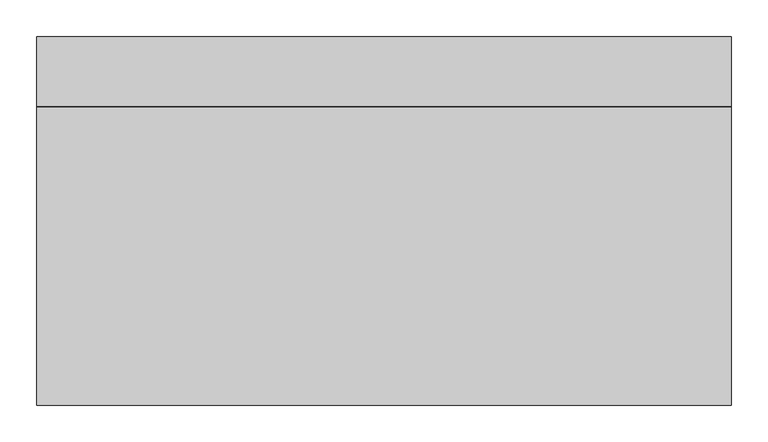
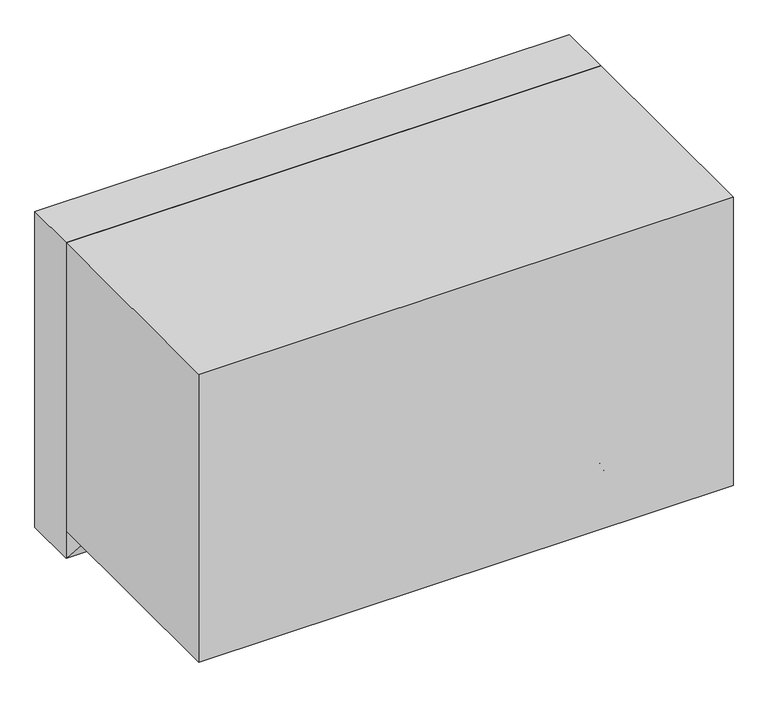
"""IFC4 building model written with IfcOpenShell, lengths in millimetres: proxy geometry, Baby Change Station_Metlam_Horizontal_Surface Mounted_Stainless Steel : 941w x 499d x 588h (ML_8200SM)."""

from ifc_helpers import new_model, si_unit, point, frame, origin, place, context, project, spatial, polyline, circle_curve, ellipse_curve, trimmed, outline, extrude, source, transform, mapped, element, save
from ifc_brep_helpers import plane_surface, cylinder_surface, revolved_surface, advanced_brep


def specialty_equipment_bf805c09(model_context):
    return source(origin(), model_context, "Body", "SolidModel", [
        advanced_brep(
        [(-389.7572247, -484.0, 780.0), (389.7572247, -484.0, 780.0), (364.666533, -484.0, 815.8332213), (362.7624956, -484.0, 816.8244004), (316.1256144, -484.0, 816.8244004), (313.801214, -484.0, 814.5), (313.801214, -484.0, 805.5), (305.1256144, -484.0, 796.8244004), (265.8909619, -484.0, 796.8244004), (258.0281984, -484.0, 801.8335332), (251.6636581, -484.0, 815.4823341), (249.5570359, -484.0, 816.8244004), (33.0, -484.0, 816.8244004), (30.6755996, -484.0, 814.5), (30.6755996, -484.0, 808.0), (24.5, -484.0, 801.8244004), (-24.5, -484.0, 801.8244004), (-30.6755996, -484.0, 808.0), (-30.6755996, -484.0, 814.5), (-33.0, -484.0, 816.8244004), (-249.5570359, -484.0, 816.8244004), (-251.6636581, -484.0, 815.4823341), (-258.0281984, -484.0, 801.8335332), (-265.8909619, -484.0, 796.8244004), (-305.1256144, -484.0, 796.8244004), (-313.801214, -484.0, 805.5), (-313.801214, -484.0, 814.5), (-316.1256144, -484.0, 816.8244004), (-362.7624956, -484.0, 816.8244004), (-364.666533, -484.0, 815.8332213), (389.7572247, -464.0, 780.0), (-389.7572247, -464.0, 780.0), (-364.666533, -464.0, 815.8332213), (-362.7624956, -464.0, 816.8244004), (-316.1256144, -464.0, 816.8244004), (-313.801214, -464.0, 814.5), (-313.801214, -464.0, 805.5), (-305.1256144, -464.0, 796.8244004), (-265.8909619, -464.0, 796.8244004), (-258.0281984, -464.0, 801.8335332), (-251.6636581, -464.0, 815.4823341), (-249.5570359, -464.0, 816.8244004), (-33.0, -464.0, 816.8244004), (-30.6755996, -464.0, 814.5), (-30.6755996, -464.0, 808.0), (-24.5, -464.0, 801.8244004), (24.5, -464.0, 801.8244004), (30.6755996, -464.0, 808.0), (30.6755996, -464.0, 814.5), (33.0, -464.0, 816.8244004), (249.5570359, -464.0, 816.8244004), (251.6636581, -464.0, 815.4823341), (258.0281984, -464.0, 801.8335332), (265.8909619, -464.0, 796.8244004), (305.1256144, -464.0, 796.8244004), (313.801214, -464.0, 805.5), (313.801214, -464.0, 814.5), (316.1256144, -464.0, 816.8244004), (362.7624956, -464.0, 816.8244004), (364.666533, -464.0, 815.8332213), (393.6339159, -480.8244004, 780.0), (393.6339159, -467.1755996, 780.0), (367.2678319, -467.1755996, 817.6546704), (367.2678319, -480.8244004, 817.6546704), (362.7624956, -467.1755996, 820.0), (362.7624956, -480.8244046, 820.0), (316.1256144, -467.1755996, 820.0), (316.1256144, -480.8244004, 820.0), (310.6256144, -467.1755996, 814.5), (310.6256144, -480.8244039, 814.5), (310.6256144, -467.1755996, 805.5), (310.6256144, -480.8244004, 805.5), (305.1256144, -467.1755996, 800.0), (305.1256144, -480.8244037, 800.0), (265.8909619, -467.1755996, 800.0), (265.8909619, -480.8244004, 800.0), (260.9062691, -467.1755996, 803.1755996), (260.9062691, -480.8243992, 803.1755996), (254.5417287, -467.1755996, 816.8244004), (254.5417287, -480.8244004, 816.8244004), (249.5570359, -467.1755996, 820.0), (249.5570359, -480.824403, 820.0), (33.0, -467.1755996, 820.0), (33.0, -480.8244004, 820.0), (27.5, -467.1755996, 814.5), (27.5, -480.8244038, 814.5), (27.5, -467.1755996, 808.0), (27.5, -480.8244004, 808.0), (24.5, -480.8244004, 805.0), (24.5, -467.1755996, 805.0), (-24.5, -467.1755996, 805.0), (-24.5, -480.8244004, 805.0), (-27.5, -480.8244004, 808.0), (-27.5, -467.1755996, 808.0), (-27.5, -467.1755996, 814.5), (-27.5, -480.8244004, 814.5), (-33.0, -467.1755996, 820.0), (-33.0, -480.8244048, 820.0), (-249.5570359, -467.1755996, 820.0), (-249.5570359, -480.8244004, 820.0), (-254.5417287, -467.1755996, 816.8244004), (-254.5417287, -480.824406, 816.8244004), (-260.9062691, -467.1755996, 803.1755996), (-260.9062691, -480.8244004, 803.1755996), (-265.8909619, -467.1755996, 800.0), (-265.8909619, -480.824404, 800.0), (-305.1256144, -467.1755996, 800.0), (-305.1256144, -480.8244004, 800.0), (-310.6256144, -467.1755996, 805.5), (-310.6256144, -480.8243995, 805.5), (-310.6256144, -467.1755996, 814.5), (-310.6256144, -480.8244004, 814.5), (-316.1256144, -467.1755996, 820.0), (-316.1256144, -480.8244006, 820.0), (-362.7624956, -467.1755996, 820.0), (-362.7624956, -480.8244004, 820.0), (-367.2678319, -467.1755996, 817.6546704), (-367.2678319, -480.8244042, 817.6546704), (-393.6339159, -467.1755996, 780.0), (-393.6339159, -480.8244004, 780.0)],
        [
            (0, 1),
            (1, 2),
            (2, 3, circle_curve(frame((362.7624956, -484.0, 814.5), z_axis=(0.0, -1.0, 0.0), x_axis=(0.8191520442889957, 0.0, 0.5735764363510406)), 2.3244004)),
            (3, 4),
            (4, 5, circle_curve(frame((316.1256144, -484.0, 814.5), z_axis=(0.0, -1.0, 0.0), x_axis=(0.0, 0.0, 1.0)), 2.3244004)),
            (5, 6),
            (6, 7, circle_curve(frame((305.1256144, -484.0, 805.5), z_axis=(0.0, 1.0, 0.0), x_axis=(1.0, 0.0, 0.0)), 8.6755996)),
            (7, 8),
            (8, 9, circle_curve(frame((265.8909619, -484.0, 805.5), z_axis=(0.0, 1.0, 0.0), x_axis=(0.0, 0.0, -1.0)), 8.6755996)),
            (9, 10),
            (10, 11, circle_curve(frame((249.5570359, -484.0, 814.5), z_axis=(0.0, -1.0, 0.0), x_axis=(0.9063077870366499, 0.0, 0.4226182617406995)), 2.3244004)),
            (11, 12),
            (12, 13, circle_curve(frame((33.0, -484.0, 814.5), z_axis=(0.0, -1.0, 0.0), x_axis=(0.0, 0.0, 1.0)), 2.3244004)),
            (13, 14),
            (14, 15, circle_curve(frame((24.5, -484.0, 808.0), z_axis=(0.0, 1.0, 0.0), x_axis=(1.0, 0.0, 0.0)), 6.1755996)),
            (15, 16),
            (16, 17, circle_curve(frame((-24.5, -484.0, 808.0), z_axis=(0.0, 1.0, 0.0), x_axis=(0.0, 0.0, -1.0)), 6.1755996)),
            (17, 18),
            (18, 19, circle_curve(frame((-33.0, -484.0, 814.5), z_axis=(0.0, -1.0, 0.0), x_axis=(1.0, 0.0, 0.0)), 2.3244004)),
            (19, 20),
            (20, 21, circle_curve(frame((-249.5570359, -484.0, 814.5), z_axis=(0.0, -1.0, 0.0), x_axis=(0.0, 0.0, 1.0)), 2.3244004)),
            (21, 22),
            (22, 23, circle_curve(frame((-265.8909619, -484.0, 805.5), z_axis=(0.0, 1.0, 0.0), x_axis=(0.9063077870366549, 0.0, -0.4226182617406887)), 8.6755996)),
            (23, 24),
            (24, 25, circle_curve(frame((-305.1256144, -484.0, 805.5), z_axis=(0.0, 1.0, 0.0), x_axis=(0.0, 0.0, -1.0)), 8.6755996)),
            (25, 26),
            (26, 27, circle_curve(frame((-316.1256144, -484.0, 814.5), z_axis=(0.0, -1.0, 0.0), x_axis=(1.0, 0.0, 0.0)), 2.3244004)),
            (27, 28),
            (28, 29, circle_curve(frame((-362.7624956, -484.0, 814.5), z_axis=(0.0, -1.0, 0.0), x_axis=(0.0, 0.0, 1.0)), 2.3244004)),
            (29, 0),
            (30, 31),
            (31, 32),
            (32, 33, circle_curve(frame((-362.7624956, -464.0, 814.5), z_axis=(0.0, 1.0, 0.0), x_axis=(0.0, 0.0, 1.0)), 2.3244004)),
            (33, 34),
            (34, 35, circle_curve(frame((-316.1256144, -464.0, 814.5), z_axis=(0.0, 1.0, 0.0), x_axis=(1.0, 0.0, 0.0)), 2.3244004)),
            (35, 36),
            (36, 37, circle_curve(frame((-305.1256144, -464.0, 805.5), z_axis=(0.0, -1.0, 0.0), x_axis=(0.0, 0.0, -1.0)), 8.6755996)),
            (37, 38),
            (38, 39, circle_curve(frame((-265.8909619, -464.0, 805.5), z_axis=(0.0, -1.0, 0.0), x_axis=(0.9063077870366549, 0.0, -0.4226182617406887)), 8.6755996)),
            (39, 40),
            (40, 41, circle_curve(frame((-249.5570359, -464.0, 814.5), z_axis=(0.0, 1.0, 0.0), x_axis=(0.0, 0.0, 1.0)), 2.3244004)),
            (41, 42),
            (42, 43, circle_curve(frame((-33.0, -464.0, 814.5), z_axis=(0.0, 1.0, 0.0), x_axis=(1.0, 0.0, 0.0)), 2.3244004)),
            (43, 44),
            (44, 45, circle_curve(frame((-24.5, -464.0, 808.0), z_axis=(0.0, -1.0, 0.0), x_axis=(0.0, 0.0, -1.0)), 6.1755996)),
            (45, 46),
            (46, 47, circle_curve(frame((24.5, -464.0, 808.0), z_axis=(0.0, -1.0, 0.0), x_axis=(1.0, 0.0, 0.0)), 6.1755996)),
            (47, 48),
            (48, 49, circle_curve(frame((33.0, -464.0, 814.5), z_axis=(0.0, 1.0, 0.0), x_axis=(0.0, 0.0, 1.0)), 2.3244004)),
            (49, 50),
            (50, 51, circle_curve(frame((249.5570359, -464.0, 814.5), z_axis=(0.0, 1.0, 0.0), x_axis=(0.9063077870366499, 0.0, 0.4226182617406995)), 2.3244004)),
            (51, 52),
            (52, 53, circle_curve(frame((265.8909619, -464.0, 805.5), z_axis=(0.0, -1.0, 0.0), x_axis=(0.0, 0.0, -1.0)), 8.6755996)),
            (53, 54),
            (54, 55, circle_curve(frame((305.1256144, -464.0, 805.5), z_axis=(0.0, -1.0, 0.0), x_axis=(1.0, 0.0, 0.0)), 8.6755996)),
            (55, 56),
            (56, 57, circle_curve(frame((316.1256144, -464.0, 814.5), z_axis=(0.0, 1.0, 0.0), x_axis=(0.0, 0.0, 1.0)), 2.3244004)),
            (57, 58),
            (58, 59, circle_curve(frame((362.7624956, -464.0, 814.5), z_axis=(0.0, 1.0, 0.0), x_axis=(0.8191520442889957, 0.0, 0.5735764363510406)), 2.3244004)),
            (59, 30),
            (60, 61),
            (61, 62),
            (62, 63),
            (63, 60),
            (62, 64, circle_curve(frame((362.7624956, -467.1755996, 814.5), z_axis=(0.0, -1.0, 0.0), x_axis=(1.0, 0.0, 0.0)), 5.5)),
            (64, 65),
            (65, 63, circle_curve(frame((362.7624956, -480.8244004, 814.5), z_axis=(0.0, 1.0, 0.0), x_axis=(1.0, 0.0, 0.0)), 5.5)),
            (64, 66),
            (66, 67),
            (67, 65),
            (66, 68, circle_curve(frame((316.1256144, -467.1755996, 814.5), z_axis=(0.0, -1.0, 0.0), x_axis=(1.0, 0.0, 0.0)), 5.5)),
            (68, 69),
            (69, 67, circle_curve(frame((316.1256144, -480.8244004, 814.5), z_axis=(0.0, 1.0, 0.0), x_axis=(1.0, 0.0, 0.0)), 5.5)),
            (68, 70),
            (70, 71),
            (71, 69),
            (70, 72, circle_curve(frame((305.1256144, -467.1755996, 805.5), z_axis=(0.0, 1.0, 0.0), x_axis=(1.0, 0.0, 0.0)), 5.5)),
            (72, 73),
            (73, 71, circle_curve(frame((305.1256144, -480.8244004, 805.5), z_axis=(0.0, -1.0, 0.0), x_axis=(1.0, 0.0, 0.0)), 5.5)),
            (72, 74),
            (74, 75),
            (75, 73),
            (74, 76, circle_curve(frame((265.8909619, -467.1755996, 805.5), z_axis=(0.0, 1.0, 0.0), x_axis=(1.0, 0.0, 0.0)), 5.5)),
            (76, 77),
            (77, 75, circle_curve(frame((265.8909619, -480.8244004, 805.5), z_axis=(0.0, -1.0, 0.0), x_axis=(1.0, 0.0, 0.0)), 5.5)),
            (76, 78),
            (78, 79),
            (79, 77),
            (78, 80, circle_curve(frame((249.5570359, -467.1755996, 814.5), z_axis=(0.0, -1.0, 0.0), x_axis=(1.0, 0.0, 0.0)), 5.5)),
            (80, 81),
            (81, 79, circle_curve(frame((249.5570359, -480.8244004, 814.5), z_axis=(0.0, 1.0, 0.0), x_axis=(1.0, 0.0, 0.0)), 5.5)),
            (80, 82),
            (82, 83),
            (83, 81),
            (82, 84, circle_curve(frame((33.0, -467.1755996, 814.5), z_axis=(0.0, -1.0, 0.0), x_axis=(1.0, 0.0, 0.0)), 5.5)),
            (84, 85),
            (85, 83, circle_curve(frame((33.0, -480.8244004, 814.5), z_axis=(0.0, 1.0, 0.0), x_axis=(1.0, 0.0, 0.0)), 5.5)),
            (84, 86),
            (86, 87),
            (87, 85),
            (88, 89),
            (89, 90),
            (90, 91),
            (91, 88),
            (92, 93),
            (93, 94),
            (94, 95),
            (95, 92),
            (94, 96, circle_curve(frame((-33.0, -467.1755996, 814.5), z_axis=(0.0, -1.0, 0.0), x_axis=(1.0, 0.0, 0.0)), 5.5)),
            (96, 97),
            (97, 95, circle_curve(frame((-33.0, -480.8244004, 814.5), z_axis=(0.0, 1.0, 0.0), x_axis=(1.0, 0.0, 0.0)), 5.5)),
            (96, 98),
            (98, 99),
            (99, 97),
            (98, 100, circle_curve(frame((-249.5570359, -467.1755996, 814.5), z_axis=(0.0, -1.0, 0.0), x_axis=(1.0, 0.0, 0.0)), 5.5)),
            (100, 101),
            (101, 99, circle_curve(frame((-249.5570359, -480.8244004, 814.5), z_axis=(0.0, 1.0, 0.0), x_axis=(1.0, 0.0, 0.0)), 5.5)),
            (100, 102),
            (102, 103),
            (103, 101),
            (102, 104, circle_curve(frame((-265.8909619, -467.1755996, 805.5), z_axis=(0.0, 1.0, 0.0), x_axis=(1.0, 0.0, 0.0)), 5.5)),
            (104, 105),
            (105, 103, circle_curve(frame((-265.8909619, -480.8244004, 805.5), z_axis=(0.0, -1.0, 0.0), x_axis=(1.0, 0.0, 0.0)), 5.5)),
            (104, 106),
            (106, 107),
            (107, 105),
            (106, 108, circle_curve(frame((-305.1256144, -467.1755996, 805.5), z_axis=(0.0, 1.0, 0.0), x_axis=(1.0, 0.0, 0.0)), 5.5)),
            (108, 109),
            (109, 107, circle_curve(frame((-305.1256144, -480.8244004, 805.5), z_axis=(0.0, -1.0, 0.0), x_axis=(1.0, 0.0, 0.0)), 5.5)),
            (108, 110),
            (110, 111),
            (111, 109),
            (110, 112, circle_curve(frame((-316.1256144, -467.1755996, 814.5), z_axis=(0.0, -1.0, 0.0), x_axis=(1.0, 0.0, 0.0)), 5.5)),
            (112, 113),
            (113, 111, circle_curve(frame((-316.1256144, -480.8244004, 814.5), z_axis=(0.0, 1.0, 0.0), x_axis=(1.0, 0.0, 0.0)), 5.5)),
            (112, 114),
            (114, 115),
            (115, 113),
            (114, 116, circle_curve(frame((-362.7624956, -467.1755996, 814.5), z_axis=(0.0, -1.0, 0.0), x_axis=(1.0, 0.0, 0.0)), 5.5)),
            (116, 117),
            (117, 115, circle_curve(frame((-362.7624956, -480.8244004, 814.5), z_axis=(0.0, 1.0, 0.0), x_axis=(1.0, 0.0, 0.0)), 5.5)),
            (116, 118),
            (118, 119),
            (119, 117),
            (0, 119, ellipse_curve(frame((-389.7572247, -480.8244004, 780.0), z_axis=(0.0, 0.0, -1.0), x_axis=(-1.0, 0.0, 0.0)), 3.8766912, 3.1755996)),
            (118, 31, ellipse_curve(frame((-389.7572247, -467.1755996, 780.0), z_axis=(0.0, 0.0, -1.0), x_axis=(-1.0, 0.0, 0.0)), 3.8766912, 3.1755996)),
            (30, 61, ellipse_curve(frame((389.7572247, -467.1755996, 780.0), z_axis=(0.0, 0.0, -1.0), x_axis=(-1.0, 0.0, 0.0)), 3.8766912, 3.1755996)),
            (60, 1, ellipse_curve(frame((389.7572247, -480.8244004, 780.0), z_axis=(0.0, 0.0, -1.0), x_axis=(-1.0, 0.0, 0.0)), 3.8766912, 3.1755996)),
            (88, 87, circle_curve(frame((24.5, -480.8244004, 808.0), z_axis=(0.0, -1.0, 0.0), x_axis=(1.0, 0.0, 0.0)), 3.0)),
            (86, 89, circle_curve(frame((24.5, -467.1755996, 808.0), z_axis=(0.0, 1.0, 0.0), x_axis=(1.0, 0.0, 0.0)), 3.0)),
            (92, 91, circle_curve(frame((-24.5, -480.8244004, 808.0), z_axis=(0.0, -1.0, 0.0), x_axis=(1.0, 0.0, 0.0)), 3.0)),
            (90, 93, circle_curve(frame((-24.5, -467.1755996, 808.0), z_axis=(0.0, 1.0, 0.0), x_axis=(1.0, 0.0, 0.0)), 3.0)),
            (59, 62, circle_curve(frame((364.666533, -467.1755996, 815.8332213), z_axis=(0.5735764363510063, 0.0, -0.8191520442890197), x_axis=(-0.8191520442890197, 0.0, -0.5735764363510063)), 3.1755996)),
            (63, 2, circle_curve(frame((364.666533, -480.8244004, 815.8332213), z_axis=(0.5735764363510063, 0.0, -0.8191520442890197), x_axis=(-0.8191520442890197, 0.0, -0.5735764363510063)), 3.1755996)),
            (58, 64, circle_curve(frame((362.7624956, -467.1755996, 816.8244004), z_axis=(1.0, 0.0, 0.0), x_axis=(0.0, 0.0, -1.0)), 3.1755996)),
            (65, 3, circle_curve(frame((362.7624956, -480.8244004, 816.8244004), z_axis=(1.0, 0.0, 0.0), x_axis=(0.0, 0.0, -1.0)), 3.1755996)),
            (57, 66, circle_curve(frame((316.1256144, -467.1755996, 816.8244004), z_axis=(1.0, 0.0, 0.0), x_axis=(0.0, 0.0, -1.0)), 3.1755996)),
            (67, 4, circle_curve(frame((316.1256144, -480.8244004, 816.8244004), z_axis=(1.0, 0.0, 0.0), x_axis=(0.0, 0.0, -1.0)), 3.1755996)),
            (56, 68, circle_curve(frame((313.801214, -467.1755996, 814.5), z_axis=(0.0, 0.0, 1.0), x_axis=(1.0, 0.0, 0.0)), 3.1755996)),
            (69, 5, circle_curve(frame((313.801214, -480.8244004, 814.5), z_axis=(0.0, 0.0, 1.0), x_axis=(1.0, 0.0, 0.0)), 3.1755996)),
            (55, 70, circle_curve(frame((313.801214, -467.1755996, 805.5), z_axis=(0.0, 0.0, 1.0), x_axis=(1.0, 0.0, 0.0)), 3.1755996)),
            (71, 6, circle_curve(frame((313.801214, -480.8244004, 805.5), z_axis=(0.0, 0.0, 1.0), x_axis=(1.0, 0.0, 0.0)), 3.1755996)),
            (54, 72, circle_curve(frame((305.1256144, -467.1755996, 796.8244004), z_axis=(1.0, 0.0, 0.0), x_axis=(0.0, 0.0, -1.0)), 3.1755996)),
            (73, 7, circle_curve(frame((305.1256144, -480.8244004, 796.8244004), z_axis=(1.0, 0.0, 0.0), x_axis=(0.0, 0.0, -1.0)), 3.1755996)),
            (53, 74, circle_curve(frame((265.8909619, -467.1755996, 796.8244004), z_axis=(1.0, 0.0, 0.0), x_axis=(0.0, 0.0, -1.0)), 3.1755996)),
            (75, 8, circle_curve(frame((265.8909619, -480.8244004, 796.8244004), z_axis=(1.0, 0.0, 0.0), x_axis=(0.0, 0.0, -1.0)), 3.1755996)),
            (52, 76, circle_curve(frame((258.0281984, -467.1755996, 801.8335332), z_axis=(0.4226182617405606, 0.0, -0.9063077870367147), x_axis=(-0.9063077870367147, 0.0, -0.4226182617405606)), 3.1755996)),
            (77, 9, circle_curve(frame((258.0281984, -480.8244004, 801.8335332), z_axis=(0.4226182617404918, 0.0, -0.9063077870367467), x_axis=(-0.9063077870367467, 0.0, -0.4226182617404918)), 3.1755996)),
            (51, 78, circle_curve(frame((251.6636581, -467.1755996, 815.4823341), z_axis=(0.4226182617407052, 0.0, -0.9063077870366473), x_axis=(-0.9063077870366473, 0.0, -0.4226182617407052)), 3.1755996)),
            (79, 10, circle_curve(frame((251.6636581, -480.8244004, 815.4823341), z_axis=(0.4226182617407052, 0.0, -0.9063077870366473), x_axis=(-0.9063077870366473, 0.0, -0.4226182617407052)), 3.1755996)),
            (50, 80, circle_curve(frame((249.5570359, -467.1755996, 816.8244004), z_axis=(1.0, 0.0, 0.0), x_axis=(0.0, 0.0, -1.0)), 3.1755996)),
            (81, 11, circle_curve(frame((249.5570359, -480.8244004, 816.8244004), z_axis=(1.0, 0.0, 0.0), x_axis=(0.0, 0.0, -1.0)), 3.1755996)),
            (49, 82, circle_curve(frame((33.0, -467.1755996, 816.8244004), z_axis=(1.0, 0.0, 0.0), x_axis=(0.0, 0.0, -1.0)), 3.1755996)),
            (83, 12, circle_curve(frame((33.0, -480.8244004, 816.8244004), z_axis=(1.0, 0.0, 0.0), x_axis=(0.0, 0.0, -1.0)), 3.1755996)),
            (48, 84, circle_curve(frame((30.6755996, -467.1755996, 814.5), z_axis=(0.0, 0.0, 1.0), x_axis=(1.0, 0.0, 0.0)), 3.1755996)),
            (85, 13, circle_curve(frame((30.6755996, -480.8244004, 814.5), z_axis=(0.0, 0.0, 1.0), x_axis=(1.0, 0.0, 0.0)), 3.1755996)),
            (47, 86, circle_curve(frame((30.6755996, -467.1755996, 808.0), z_axis=(0.0, 0.0, 1.0), x_axis=(1.0, 0.0, 0.0)), 3.1755996)),
            (87, 14, circle_curve(frame((30.6755996, -480.8244004, 808.0), z_axis=(0.0, 0.0, 1.0), x_axis=(1.0, 0.0, 0.0)), 3.1755996)),
            (45, 90, circle_curve(frame((-24.5, -467.1755996, 801.8244004), z_axis=(1.0, 0.0, 0.0), x_axis=(0.0, 0.0, -1.0)), 3.1755996)),
            (89, 46, circle_curve(frame((24.5, -467.1755996, 801.8244004), z_axis=(-1.0, 0.0, 0.0), x_axis=(0.0, 0.0, -1.0)), 3.1755996)),
            (91, 16, circle_curve(frame((-24.5, -480.8244004, 801.8244004), z_axis=(1.0, 0.0, 0.0), x_axis=(0.0, 0.0, -1.0)), 3.1755996)),
            (15, 88, circle_curve(frame((24.5, -480.8244004, 801.8244004), z_axis=(-1.0, 0.0, 0.0), x_axis=(0.0, 0.0, -1.0)), 3.1755996)),
            (43, 94, circle_curve(frame((-30.6755996, -467.1755996, 814.5), z_axis=(0.0, 0.0, -1.0), x_axis=(-1.0, 0.0, 0.0)), 3.1755996)),
            (93, 44, circle_curve(frame((-30.6755996, -467.1755996, 808.0), z_axis=(0.0, 0.0, 1.0), x_axis=(-1.0, 0.0, 0.0)), 3.1755996)),
            (95, 18, circle_curve(frame((-30.6755996, -480.8244004, 814.5), z_axis=(0.0, 0.0, -1.0), x_axis=(-1.0, 0.0, 0.0)), 3.1755996)),
            (17, 92, circle_curve(frame((-30.6755996, -480.8244004, 808.0), z_axis=(0.0, 0.0, 1.0), x_axis=(-1.0, 0.0, 0.0)), 3.1755996)),
            (42, 96, circle_curve(frame((-33.0, -467.1755996, 816.8244004), z_axis=(1.0, 0.0, 0.0), x_axis=(0.0, 0.0, -1.0)), 3.1755996)),
            (97, 19, circle_curve(frame((-33.0, -480.8244004, 816.8244004), z_axis=(1.0, 0.0, 0.0), x_axis=(0.0, 0.0, -1.0)), 3.1755996)),
            (41, 98, circle_curve(frame((-249.5570359, -467.1755996, 816.8244004), z_axis=(1.0, 0.0, 0.0), x_axis=(0.0, 0.0, -1.0)), 3.1755996)),
            (99, 20, circle_curve(frame((-249.5570359, -480.8244004, 816.8244004), z_axis=(1.0, 0.0, 0.0), x_axis=(0.0, 0.0, -1.0)), 3.1755996)),
            (40, 100, circle_curve(frame((-251.6636581, -467.1755996, 815.4823341), z_axis=(0.4226182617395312, 0.0, 0.9063077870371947), x_axis=(0.9063077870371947, 0.0, -0.4226182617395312)), 3.1755996)),
            (101, 21, circle_curve(frame((-251.6636581, -480.8244004, 815.4823341), z_axis=(0.4226182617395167, 0.0, 0.9063077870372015), x_axis=(0.9063077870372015, 0.0, -0.4226182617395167)), 3.1755996)),
            (39, 102, circle_curve(frame((-258.0281984, -467.1755996, 801.8335332), z_axis=(0.4226182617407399, 0.0, 0.9063077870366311), x_axis=(0.9063077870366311, 0.0, -0.4226182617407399)), 3.1755996)),
            (103, 22, circle_curve(frame((-258.0281984, -480.8244004, 801.8335332), z_axis=(0.4226182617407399, 0.0, 0.9063077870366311), x_axis=(0.9063077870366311, 0.0, -0.4226182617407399)), 3.1755996)),
            (38, 104, circle_curve(frame((-265.8909619, -467.1755996, 796.8244004), z_axis=(1.0, 0.0, 0.0), x_axis=(0.0, 0.0, -1.0)), 3.1755996)),
            (105, 23, circle_curve(frame((-265.8909619, -480.8244004, 796.8244004), z_axis=(1.0, 0.0, 0.0), x_axis=(0.0, 0.0, -1.0)), 3.1755996)),
            (37, 106, circle_curve(frame((-305.1256144, -467.1755996, 796.8244004), z_axis=(1.0, 0.0, 0.0), x_axis=(0.0, 0.0, -1.0)), 3.1755996)),
            (107, 24, circle_curve(frame((-305.1256144, -480.8244004, 796.8244004), z_axis=(1.0, 0.0, 0.0), x_axis=(0.0, 0.0, -1.0)), 3.1755996)),
            (36, 108, circle_curve(frame((-313.801214, -467.1755996, 805.5), z_axis=(0.0, 0.0, -1.0), x_axis=(-1.0, 0.0, 0.0)), 3.1755996)),
            (109, 25, circle_curve(frame((-313.801214, -480.8244004, 805.5), z_axis=(0.0, 0.0, -1.0), x_axis=(-1.0, 0.0, 0.0)), 3.1755996)),
            (35, 110, circle_curve(frame((-313.801214, -467.1755996, 814.5), z_axis=(0.0, 0.0, -1.0), x_axis=(-1.0, 0.0, 0.0)), 3.1755996)),
            (111, 26, circle_curve(frame((-313.801214, -480.8244004, 814.5), z_axis=(0.0, 0.0, -1.0), x_axis=(-1.0, 0.0, 0.0)), 3.1755996)),
            (34, 112, circle_curve(frame((-316.1256144, -467.1755996, 816.8244004), z_axis=(1.0, 0.0, 0.0), x_axis=(0.0, 0.0, -1.0)), 3.1755996)),
            (113, 27, circle_curve(frame((-316.1256144, -480.8244004, 816.8244004), z_axis=(1.0, 0.0, 0.0), x_axis=(0.0, 0.0, -1.0)), 3.1755996)),
            (33, 114, circle_curve(frame((-362.7624956, -467.1755996, 816.8244004), z_axis=(1.0, 0.0, 0.0), x_axis=(0.0, 0.0, -1.0)), 3.1755996)),
            (115, 28, circle_curve(frame((-362.7624956, -480.8244004, 816.8244004), z_axis=(1.0, 0.0, 0.0), x_axis=(0.0, 0.0, -1.0)), 3.1755996)),
            (32, 116, circle_curve(frame((-364.666533, -467.1755996, 815.8332213), z_axis=(0.5735764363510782, 0.0, 0.8191520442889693), x_axis=(0.8191520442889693, 0.0, -0.5735764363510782)), 3.1755996)),
            (117, 29, circle_curve(frame((-364.666533, -480.8244004, 815.8332213), z_axis=(0.5735764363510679, 0.0, 0.8191520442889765), x_axis=(0.8191520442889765, 0.0, -0.5735764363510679)), 3.1755996)),
        ],
        [
            plane_surface(frame((393.6339159, -484.0, 780.0), z_axis=(0.0, -1.0000000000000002, 0.0), x_axis=(-0.573576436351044, 0.0, 0.8191520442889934))),
            plane_surface(frame((393.6339159, -464.0, 780.0), z_axis=(0.0, 1.0000000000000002, 0.0), x_axis=(0.573576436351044, 0.0, -0.8191520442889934))),
            plane_surface(frame((393.6339159, -484.0, 780.0), z_axis=(0.8191520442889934, 0.0, 0.573576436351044), x_axis=(0.0, 1.0, 0.0))),
            cylinder_surface(frame((362.7624956, -464.0, 814.5), z_axis=(0.0, -1.0, 0.0), x_axis=(1.0, 0.0, 0.0)), 5.5),
            plane_surface(frame((362.7624956, -484.0, 820.0), z_axis=(0.0, 0.0, 1.0), x_axis=(0.0, 1.0, 0.0))),
            cylinder_surface(frame((316.1256144, -464.0, 814.5), z_axis=(0.0, -1.0, 0.0), x_axis=(1.0, 0.0, 0.0)), 5.5),
            plane_surface(frame((310.6256144, -484.0, 814.5), z_axis=(-1.0, 0.0, 0.0), x_axis=(0.0, 1.0, 0.0))),
            revolved_surface(polyline([(310.6256144, -467.1755996, 805.5), (310.6256144, -480.8244037, 805.5)]), (305.1256144, -464.0, 805.5), (0.0, 1.0, 0.0)),
            plane_surface(frame((305.1256144, -484.0, 800.0), z_axis=(0.0, 0.0, 1.0), x_axis=(0.0, 1.0, 0.0))),
            revolved_surface(polyline([(271.3909619, -467.1755996, 805.5), (271.3909619, -480.8244004, 805.5)]), (265.8909619, -464.0, 805.5), (0.0, 1.0, 0.0)),
            plane_surface(frame((260.9062691, -484.0, 803.1755996), z_axis=(0.9063077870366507, 0.0, 0.42261826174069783), x_axis=(0.0, 1.0, 0.0))),
            cylinder_surface(frame((249.5570359, -464.0, 814.5), z_axis=(0.0, -1.0, 0.0), x_axis=(1.0, 0.0, 0.0)), 5.5),
            plane_surface(frame((249.5570359, -484.0, 820.0), z_axis=(0.0, 0.0, 1.0), x_axis=(0.0, 1.0, 0.0))),
            cylinder_surface(frame((33.0, -464.0, 814.5), z_axis=(0.0, -1.0, 0.0), x_axis=(1.0, 0.0, 0.0)), 5.5),
            plane_surface(frame((27.5, -484.0, 814.5), z_axis=(-1.0, 0.0, 0.0), x_axis=(0.0, 1.0, 0.0))),
            plane_surface(frame((24.5, -484.0, 805.0), z_axis=(0.0, 0.0, 1.0), x_axis=(0.0, 1.0, 0.0))),
            plane_surface(frame((-27.5, -484.0, 808.0), z_axis=(1.0, 0.0, 0.0), x_axis=(0.0, 1.0, 0.0))),
            cylinder_surface(frame((-33.0, -464.0, 814.5), z_axis=(0.0, -1.0, 0.0), x_axis=(1.0, 0.0, 0.0)), 5.5),
            plane_surface(frame((-33.0, -484.0, 820.0), z_axis=(0.0, 0.0, 1.0), x_axis=(0.0, 1.0, 0.0))),
            cylinder_surface(frame((-249.5570359, -464.0, 814.5), z_axis=(0.0, -1.0, 0.0), x_axis=(1.0, 0.0, 0.0)), 5.5),
            plane_surface(frame((-254.5417287, -484.0, 816.8244004), z_axis=(-0.906307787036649, 0.0, 0.42261826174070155), x_axis=(0.0, 1.0, 0.0))),
            revolved_surface(polyline([(-260.3909619, -467.1755996, 805.5), (-260.3909619, -480.824404, 805.5)]), (-265.8909619, -464.0, 805.5), (0.0, 1.0, 0.0)),
            plane_surface(frame((-265.8909619, -484.0, 800.0), z_axis=(0.0, 0.0, 1.0), x_axis=(0.0, 1.0, 0.0))),
            revolved_surface(polyline([(-299.6256144, -467.1755996, 805.5), (-299.6256144, -480.8244004, 805.5)]), (-305.1256144, -464.0, 805.5), (0.0, 1.0, 0.0)),
            plane_surface(frame((-310.6256144, -484.0, 805.5), z_axis=(1.0, 0.0, 0.0), x_axis=(0.0, 1.0, 0.0))),
            cylinder_surface(frame((-316.1256144, -464.0, 814.5), z_axis=(0.0, -1.0, 0.0), x_axis=(1.0, 0.0, 0.0)), 5.5),
            plane_surface(frame((-316.1256144, -484.0, 820.0), z_axis=(0.0, 0.0, 1.0), x_axis=(0.0, 1.0, 0.0))),
            cylinder_surface(frame((-362.7624956, -464.0, 814.5), z_axis=(0.0, -1.0, 0.0), x_axis=(1.0, 0.0, 0.0)), 5.5),
            plane_surface(frame((-367.2678319, -484.0, 817.6546704), z_axis=(-0.8191520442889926, 0.0, 0.5735764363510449), x_axis=(0.0, 1.0, 0.0))),
            plane_surface(frame((-393.6339159, -484.0, 780.0), z_axis=(0.0, 0.0, -1.0), x_axis=(0.0, 1.0, 0.0))),
            revolved_surface(polyline([(27.5, -467.1755996, 808.0), (27.5, -480.8244004, 808.0)]), (24.5, -464.0, 808.0), (0.0, 1.0, 0.0)),
            revolved_surface(polyline([(-21.5, -467.1755996, 808.0), (-21.5, -480.8244004, 808.0)]), (-24.5, -464.0, 808.0), (0.0, 1.0, 0.0)),
            cylinder_surface(frame((391.0326171, -467.1755996, 778.1785509), z_axis=(-0.5735764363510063, 0.0, 0.8191520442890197), x_axis=(-0.8191520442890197, 0.0, -0.5735764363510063)), 3.1755996),
            cylinder_surface(frame((391.0326171, -480.8244004, 778.1785509), z_axis=(-0.5735764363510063, 0.0, 0.8191520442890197), x_axis=(-0.8191520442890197, 0.0, -0.5735764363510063)), 3.1755996),
            revolved_surface(trimmed(ellipse_curve(frame((364.666533, -467.1755996, 815.8332213), z_axis=(0.5735764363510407, 0.0, -0.8191520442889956), x_axis=(-0.8191520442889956, 0.0, -0.5735764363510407)), 3.1755996, 3.1755996), [point((364.666533, -464.0, 815.8332213))], [point((367.2678319, -467.1755996, 817.6546704))], True, "CARTESIAN"), (362.7624956, -499.0, 814.5), (0.0, -1.0, 0.0)),
            revolved_surface(trimmed(ellipse_curve(frame((364.666533, -480.8244004, 815.8332213), z_axis=(0.5735764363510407, 0.0, -0.8191520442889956), x_axis=(-0.8191520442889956, 0.0, -0.5735764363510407)), 3.1755996, 3.1755996), [point((367.2678319, -480.8244004, 817.6546704))], [point((364.666533, -484.0, 815.8332213))], True, "CARTESIAN"), (362.7624956, -499.0, 814.5), (0.0, -1.0, 0.0)),
            cylinder_surface(frame((362.7624956, -467.1755996, 816.8244004), z_axis=(-1.0, 0.0, 0.0), x_axis=(0.0, 0.0, -1.0)), 3.1755996),
            cylinder_surface(frame((362.7624956, -480.8244004, 816.8244004), z_axis=(-1.0, 0.0, 0.0), x_axis=(0.0, 0.0, -1.0)), 3.1755996),
            revolved_surface(trimmed(ellipse_curve(frame((316.1256144, -467.1755996, 816.8244004), z_axis=(1.0, 0.0, 0.0), x_axis=(0.0, 0.0, -1.0)), 3.1755996, 3.1755996), [point((316.1256144, -464.0, 816.8244004))], [point((316.1256144, -467.1755996, 820.0))], True, "CARTESIAN"), (316.1256144, -499.0, 814.5), (0.0, -1.0, 0.0)),
            revolved_surface(trimmed(ellipse_curve(frame((316.1256144, -480.8244004, 816.8244004), z_axis=(1.0, 0.0, 0.0), x_axis=(0.0, 0.0, -1.0)), 3.1755996, 3.1755996), [point((316.1256144, -480.8244004, 820.0))], [point((316.1256144, -484.0, 816.8244004))], True, "CARTESIAN"), (316.1256144, -499.0, 814.5), (0.0, -1.0, 0.0)),
            cylinder_surface(frame((313.801214, -467.1755996, 814.5), z_axis=(0.0, 0.0, -1.0), x_axis=(1.0, 0.0, 0.0)), 3.1755996),
            cylinder_surface(frame((313.801214, -480.8244004, 814.5), z_axis=(0.0, 0.0, -1.0), x_axis=(1.0, 0.0, 0.0)), 3.1755996),
            revolved_surface(trimmed(ellipse_curve(frame((313.801214, -467.1755996, 805.5), z_axis=(0.0, 0.0, 1.0), x_axis=(1.0, 0.0, 0.0)), 3.1755996, 3.1755996), [point((313.801214, -464.0, 805.5))], [point((310.6256144, -467.1755996, 805.5))], True, "CARTESIAN"), (305.1256144, -499.0, 805.5), (0.0, 1.0, 0.0)),
            revolved_surface(trimmed(ellipse_curve(frame((313.801214, -480.8244004, 805.5), z_axis=(0.0, 0.0, 1.0), x_axis=(1.0, 0.0, 0.0)), 3.1755996, 3.1755996), [point((310.6256144, -480.8244004, 805.5))], [point((313.801214, -484.0, 805.5))], True, "CARTESIAN"), (305.1256144, -499.0, 805.5), (0.0, 1.0, 0.0)),
            cylinder_surface(frame((305.1256144, -467.1755996, 796.8244004), z_axis=(-1.0, 0.0, 0.0), x_axis=(0.0, 0.0, -1.0)), 3.1755996),
            cylinder_surface(frame((305.1256144, -480.8244004, 796.8244004), z_axis=(-1.0, 0.0, 0.0), x_axis=(0.0, 0.0, -1.0)), 3.1755996),
            revolved_surface(trimmed(ellipse_curve(frame((265.8909619, -467.1755996, 796.8244004), z_axis=(1.0, 0.0, 0.0), x_axis=(0.0, 0.0, -1.0)), 3.1755996, 3.1755996), [point((265.8909619, -464.0, 796.8244004))], [point((265.8909619, -467.1755996, 800.0))], True, "CARTESIAN"), (265.8909619, -499.0, 805.5), (0.0, 1.0, 0.0)),
            revolved_surface(trimmed(ellipse_curve(frame((265.8909619, -480.8244004, 796.8244004), z_axis=(1.0, 0.0, 0.0), x_axis=(0.0, 0.0, -1.0)), 3.1755996, 3.1755996), [point((265.8909619, -480.8244004, 800.0))], [point((265.8909619, -484.0, 796.8244004))], True, "CARTESIAN"), (265.8909619, -499.0, 805.5), (0.0, 1.0, 0.0)),
            cylinder_surface(frame((258.0281984, -467.1755996, 801.8335332), z_axis=(-0.4226182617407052, 0.0, 0.9063077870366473), x_axis=(-0.9063077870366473, 0.0, -0.4226182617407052)), 3.1755996),
            cylinder_surface(frame((258.0281984, -480.8244004, 801.8335332), z_axis=(-0.4226182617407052, 0.0, 0.9063077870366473), x_axis=(-0.9063077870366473, 0.0, -0.4226182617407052)), 3.1755996),
            revolved_surface(trimmed(ellipse_curve(frame((251.6636581, -467.1755996, 815.4823341), z_axis=(0.4226182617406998, 0.0, -0.9063077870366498), x_axis=(-0.9063077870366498, 0.0, -0.4226182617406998)), 3.1755996, 3.1755996), [point((251.6636581, -464.0, 815.4823341))], [point((254.5417287, -467.1755996, 816.8244004))], True, "CARTESIAN"), (249.5570359, -499.0, 814.5), (0.0, -1.0, 0.0)),
            revolved_surface(trimmed(ellipse_curve(frame((251.6636581, -480.8244004, 815.4823341), z_axis=(0.4226182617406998, 0.0, -0.9063077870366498), x_axis=(-0.9063077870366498, 0.0, -0.4226182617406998)), 3.1755996, 3.1755996), [point((254.5417287, -480.8244004, 816.8244004))], [point((251.6636581, -484.0, 815.4823341))], True, "CARTESIAN"), (249.5570359, -499.0, 814.5), (0.0, -1.0, 0.0)),
            cylinder_surface(frame((249.5570359, -467.1755996, 816.8244004), z_axis=(-1.0, 0.0, 0.0), x_axis=(0.0, 0.0, -1.0)), 3.1755996),
            cylinder_surface(frame((249.5570359, -480.8244004, 816.8244004), z_axis=(-1.0, 0.0, 0.0), x_axis=(0.0, 0.0, -1.0)), 3.1755996),
            revolved_surface(trimmed(ellipse_curve(frame((33.0, -467.1755996, 816.8244004), z_axis=(1.0, 0.0, 0.0), x_axis=(0.0, 0.0, -1.0)), 3.1755996, 3.1755996), [point((33.0, -464.0, 816.8244004))], [point((33.0, -467.1755996, 820.0))], True, "CARTESIAN"), (33.0, -499.0, 814.5), (0.0, -1.0, 0.0)),
            revolved_surface(trimmed(ellipse_curve(frame((33.0, -480.8244004, 816.8244004), z_axis=(1.0, 0.0, 0.0), x_axis=(0.0, 0.0, -1.0)), 3.1755996, 3.1755996), [point((33.0, -480.8244004, 820.0))], [point((33.0, -484.0, 816.8244004))], True, "CARTESIAN"), (33.0, -499.0, 814.5), (0.0, -1.0, 0.0)),
            cylinder_surface(frame((30.6755996, -467.1755996, 814.5), z_axis=(0.0, 0.0, -1.0), x_axis=(1.0, 0.0, 0.0)), 3.1755996),
            cylinder_surface(frame((30.6755996, -480.8244004, 814.5), z_axis=(0.0, 0.0, -1.0), x_axis=(1.0, 0.0, 0.0)), 3.1755996),
            cylinder_surface(frame((24.5, -467.1755996, 801.8244004), z_axis=(-1.0, 0.0, 0.0), x_axis=(0.0, 0.0, -1.0)), 3.1755996),
            cylinder_surface(frame((24.5, -480.8244004, 801.8244004), z_axis=(-1.0, 0.0, 0.0), x_axis=(0.0, 0.0, -1.0)), 3.1755996),
            cylinder_surface(frame((-30.6755996, -467.1755996, 808.0), z_axis=(0.0, 0.0, 1.0), x_axis=(-1.0, 0.0, 0.0)), 3.1755996),
            cylinder_surface(frame((-30.6755996, -480.8244004, 808.0), z_axis=(0.0, 0.0, 1.0), x_axis=(-1.0, 0.0, 0.0)), 3.1755996),
            revolved_surface(trimmed(ellipse_curve(frame((-30.6755996, -467.1755996, 814.5), z_axis=(0.0, 0.0, -1.0), x_axis=(-1.0, 0.0, 0.0)), 3.1755996, 3.1755996), [point((-30.6755996, -464.0, 814.5))], [point((-27.5, -467.1755996, 814.5))], True, "CARTESIAN"), (-33.0, -499.0, 814.5), (0.0, -1.0, 0.0)),
            revolved_surface(trimmed(ellipse_curve(frame((-30.6755996, -480.8244004, 814.5), z_axis=(0.0, 0.0, -1.0), x_axis=(-1.0, 0.0, 0.0)), 3.1755996, 3.1755996), [point((-27.5, -480.8244004, 814.5))], [point((-30.6755996, -484.0, 814.5))], True, "CARTESIAN"), (-33.0, -499.0, 814.5), (0.0, -1.0, 0.0)),
            cylinder_surface(frame((-33.0, -467.1755996, 816.8244004), z_axis=(-1.0, 0.0, 0.0), x_axis=(0.0, 0.0, -1.0)), 3.1755996),
            cylinder_surface(frame((-33.0, -480.8244004, 816.8244004), z_axis=(-1.0, 0.0, 0.0), x_axis=(0.0, 0.0, -1.0)), 3.1755996),
            revolved_surface(trimmed(ellipse_curve(frame((-249.5570359, -467.1755996, 816.8244004), z_axis=(1.0, 0.0, 0.0), x_axis=(0.0, 0.0, -1.0)), 3.1755996, 3.1755996), [point((-249.5570359, -464.0, 816.8244004))], [point((-249.5570359, -467.1755996, 820.0))], True, "CARTESIAN"), (-249.5570359, -499.0, 814.5), (0.0, -1.0, 0.0)),
            revolved_surface(trimmed(ellipse_curve(frame((-249.5570359, -480.8244004, 816.8244004), z_axis=(1.0, 0.0, 0.0), x_axis=(0.0, 0.0, -1.0)), 3.1755996, 3.1755996), [point((-249.5570359, -480.8244004, 820.0))], [point((-249.5570359, -484.0, 816.8244004))], True, "CARTESIAN"), (-249.5570359, -499.0, 814.5), (0.0, -1.0, 0.0)),
            cylinder_surface(frame((-251.6636581, -467.1755996, 815.4823341), z_axis=(-0.4226182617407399, 0.0, -0.9063077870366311), x_axis=(0.9063077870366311, 0.0, -0.4226182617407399)), 3.1755996),
            cylinder_surface(frame((-251.6636581, -480.8244004, 815.4823341), z_axis=(-0.4226182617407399, 0.0, -0.9063077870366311), x_axis=(0.9063077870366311, 0.0, -0.4226182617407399)), 3.1755996),
            revolved_surface(trimmed(ellipse_curve(frame((-258.0281984, -467.1755996, 801.8335332), z_axis=(0.42261826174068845, 0.0, 0.906307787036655), x_axis=(0.906307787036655, 0.0, -0.42261826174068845)), 3.1755996, 3.1755996), [point((-258.0281984, -464.0, 801.8335332))], [point((-260.9062691, -467.1755996, 803.1755996))], True, "CARTESIAN"), (-265.8909619, -499.0, 805.5), (0.0, 1.0, 0.0)),
            revolved_surface(trimmed(ellipse_curve(frame((-258.0281984, -480.8244004, 801.8335332), z_axis=(0.42261826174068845, 0.0, 0.906307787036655), x_axis=(0.906307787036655, 0.0, -0.42261826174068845)), 3.1755996, 3.1755996), [point((-260.9062691, -480.8244004, 803.1755996))], [point((-258.0281984, -484.0, 801.8335332))], True, "CARTESIAN"), (-265.8909619, -499.0, 805.5), (0.0, 1.0, 0.0)),
            cylinder_surface(frame((-265.8909619, -467.1755996, 796.8244004), z_axis=(-1.0, 0.0, 0.0), x_axis=(0.0, 0.0, -1.0)), 3.1755996),
            cylinder_surface(frame((-265.8909619, -480.8244004, 796.8244004), z_axis=(-1.0, 0.0, 0.0), x_axis=(0.0, 0.0, -1.0)), 3.1755996),
            revolved_surface(trimmed(ellipse_curve(frame((-305.1256144, -467.1755996, 796.8244004), z_axis=(1.0, 0.0, 0.0), x_axis=(0.0, 0.0, -1.0)), 3.1755996, 3.1755996), [point((-305.1256144, -464.0, 796.8244004))], [point((-305.1256144, -467.1755996, 800.0))], True, "CARTESIAN"), (-305.1256144, -499.0, 805.5), (0.0, 1.0, 0.0)),
            revolved_surface(trimmed(ellipse_curve(frame((-305.1256144, -480.8244004, 796.8244004), z_axis=(1.0, 0.0, 0.0), x_axis=(0.0, 0.0, -1.0)), 3.1755996, 3.1755996), [point((-305.1256144, -480.8244004, 800.0))], [point((-305.1256144, -484.0, 796.8244004))], True, "CARTESIAN"), (-305.1256144, -499.0, 805.5), (0.0, 1.0, 0.0)),
            cylinder_surface(frame((-313.801214, -467.1755996, 805.5), z_axis=(0.0, 0.0, 1.0), x_axis=(-1.0, 0.0, 0.0)), 3.1755996),
            cylinder_surface(frame((-313.801214, -480.8244004, 805.5), z_axis=(0.0, 0.0, 1.0), x_axis=(-1.0, 0.0, 0.0)), 3.1755996),
            revolved_surface(trimmed(ellipse_curve(frame((-313.801214, -467.1755996, 814.5), z_axis=(0.0, 0.0, -1.0), x_axis=(-1.0, 0.0, 0.0)), 3.1755996, 3.1755996), [point((-313.801214, -464.0, 814.5))], [point((-310.6256144, -467.1755996, 814.5))], True, "CARTESIAN"), (-316.1256144, -499.0, 814.5), (0.0, -1.0, 0.0)),
            revolved_surface(trimmed(ellipse_curve(frame((-313.801214, -480.8244004, 814.5), z_axis=(0.0, 0.0, -1.0), x_axis=(-1.0, 0.0, 0.0)), 3.1755996, 3.1755996), [point((-310.6256144, -480.8244004, 814.5))], [point((-313.801214, -484.0, 814.5))], True, "CARTESIAN"), (-316.1256144, -499.0, 814.5), (0.0, -1.0, 0.0)),
            cylinder_surface(frame((-316.1256144, -467.1755996, 816.8244004), z_axis=(-1.0, 0.0, 0.0), x_axis=(0.0, 0.0, -1.0)), 3.1755996),
            cylinder_surface(frame((-316.1256144, -480.8244004, 816.8244004), z_axis=(-1.0, 0.0, 0.0), x_axis=(0.0, 0.0, -1.0)), 3.1755996),
            revolved_surface(trimmed(ellipse_curve(frame((-362.7624956, -467.1755996, 816.8244004), z_axis=(1.0, 0.0, 0.0), x_axis=(0.0, 0.0, -1.0)), 3.1755996, 3.1755996), [point((-362.7624956, -464.0, 816.8244004))], [point((-362.7624956, -467.1755996, 820.0))], True, "CARTESIAN"), (-362.7624956, -499.0, 814.5), (0.0, -1.0, 0.0)),
            revolved_surface(trimmed(ellipse_curve(frame((-362.7624956, -480.8244004, 816.8244004), z_axis=(1.0, 0.0, 0.0), x_axis=(0.0, 0.0, -1.0)), 3.1755996, 3.1755996), [point((-362.7624956, -480.8244004, 820.0))], [point((-362.7624956, -484.0, 816.8244004))], True, "CARTESIAN"), (-362.7624956, -499.0, 814.5), (0.0, -1.0, 0.0)),
            cylinder_surface(frame((-364.666533, -467.1755996, 815.8332213), z_axis=(-0.5735764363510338, 0.0, -0.8191520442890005), x_axis=(0.8191520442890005, 0.0, -0.5735764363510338)), 3.1755996),
            cylinder_surface(frame((-364.666533, -480.8244004, 815.8332213), z_axis=(-0.5735764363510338, 0.0, -0.8191520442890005), x_axis=(0.8191520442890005, 0.0, -0.5735764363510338)), 3.1755996),
            revolved_surface(trimmed(ellipse_curve(frame((30.6755996, -467.1755996, 808.0), z_axis=(0.0, 0.0, 1.0), x_axis=(1.0, 0.0, 0.0)), 3.1755996, 3.1755996), [point((30.6755996, -464.0, 808.0))], [point((27.5, -467.1755996, 808.0))], True, "CARTESIAN"), (24.5, -499.0, 808.0), (0.0, 1.0, 0.0)),
            revolved_surface(trimmed(ellipse_curve(frame((30.6755996, -480.8244004, 808.0), z_axis=(0.0, 0.0, 1.0), x_axis=(1.0, 0.0, 0.0)), 3.1755996, 3.1755996), [point((27.5, -480.8244004, 808.0))], [point((30.6755996, -484.0, 808.0))], True, "CARTESIAN"), (24.5, -499.0, 808.0), (0.0, 1.0, 0.0)),
            revolved_surface(trimmed(ellipse_curve(frame((-24.5, -467.1755996, 801.8244004), z_axis=(1.0, 0.0, 0.0), x_axis=(0.0, 0.0, -1.0)), 3.1755996, 3.1755996), [point((-24.5, -464.0, 801.8244004))], [point((-24.5, -467.1755996, 805.0))], True, "CARTESIAN"), (-24.5, -499.0, 808.0), (0.0, 1.0, 0.0)),
            revolved_surface(trimmed(ellipse_curve(frame((-24.5, -480.8244004, 801.8244004), z_axis=(1.0, 0.0, 0.0), x_axis=(0.0, 0.0, -1.0)), 3.1755996, 3.1755996), [point((-24.5, -480.8244004, 805.0))], [point((-24.5, -484.0, 801.8244004))], True, "CARTESIAN"), (-24.5, -499.0, 808.0), (0.0, 1.0, 0.0)),
        ],
        [
            (0, [[1, 2, 3, 4, 5, 6, 7, 8, 9, 10, 11, 12, 13, 14, 15, 16, 17, 18, 19, 20, 21, 22, 23, 24, 25, 26, 27, 28, 29, 30]]),
            (1, [[31, 32, 33, 34, 35, 36, 37, 38, 39, 40, 41, 42, 43, 44, 45, 46, 47, 48, 49, 50, 51, 52, 53, 54, 55, 56, 57, 58, 59, 60]]),
            (2, [[61, 62, 63, 64]]),
            (3, [[-63, 65, 66, 67]]),
            (4, [[-66, 68, 69, 70]]),
            (5, [[-69, 71, 72, 73]]),
            (6, [[-72, 74, 75, 76]]),
            (7, [[-75, 77, 78, 79]]),
            (8, [[-78, 80, 81, 82]]),
            (9, [[-81, 83, 84, 85]]),
            (10, [[-84, 86, 87, 88]]),
            (11, [[-87, 89, 90, 91]]),
            (12, [[-90, 92, 93, 94]]),
            (13, [[-93, 95, 96, 97]]),
            (14, [[-96, 98, 99, 100]]),
            (15, [[101, 102, 103, 104]]),
            (16, [[105, 106, 107, 108]]),
            (17, [[-107, 109, 110, 111]]),
            (18, [[-110, 112, 113, 114]]),
            (19, [[-113, 115, 116, 117]]),
            (20, [[-116, 118, 119, 120]]),
            (21, [[-119, 121, 122, 123]]),
            (22, [[-122, 124, 125, 126]]),
            (23, [[-125, 127, 128, 129]]),
            (24, [[-128, 130, 131, 132]]),
            (25, [[-131, 133, 134, 135]]),
            (26, [[-134, 136, 137, 138]]),
            (27, [[-137, 139, 140, 141]]),
            (28, [[-140, 142, 143, 144]]),
            (29, [[-1, 145, -143, 146, -31, 147, -61, 148]]),
            (30, [[-101, 149, -99, 150]]),
            (31, [[-105, 151, -103, 152]]),
            (32, [[153, -62, -147, -60]]),
            (33, [[154, -2, -148, -64]]),
            (34, [[-153, -59, 155, -65]]),
            (35, [[-154, -67, 156, -3]]),
            (36, [[-155, -58, 157, -68]]),
            (37, [[-156, -70, 158, -4]]),
            (38, [[-157, -57, 159, -71]]),
            (39, [[-158, -73, 160, -5]]),
            (40, [[-159, -56, 161, -74]]),
            (41, [[-160, -76, 162, -6]]),
            (42, [[-161, -55, 163, -77]]),
            (43, [[-162, -79, 164, -7]]),
            (44, [[-163, -54, 165, -80]]),
            (45, [[-164, -82, 166, -8]]),
            (46, [[-165, -53, 167, -83]]),
            (47, [[-166, -85, 168, -9]]),
            (48, [[-167, -52, 169, -86]]),
            (49, [[-168, -88, 170, -10]]),
            (50, [[-169, -51, 171, -89]]),
            (51, [[-170, -91, 172, -11]]),
            (52, [[-171, -50, 173, -92]]),
            (53, [[-172, -94, 174, -12]]),
            (54, [[-173, -49, 175, -95]]),
            (55, [[-174, -97, 176, -13]]),
            (56, [[-175, -48, 177, -98]]),
            (57, [[-176, -100, 178, -14]]),
            (58, [[179, -102, 180, -46]]),
            (59, [[181, -16, 182, -104]]),
            (60, [[183, -106, 184, -44]]),
            (61, [[185, -18, 186, -108]]),
            (62, [[-183, -43, 187, -109]]),
            (63, [[-185, -111, 188, -19]]),
            (64, [[-187, -42, 189, -112]]),
            (65, [[-188, -114, 190, -20]]),
            (66, [[-189, -41, 191, -115]]),
            (67, [[-190, -117, 192, -21]]),
            (68, [[-191, -40, 193, -118]]),
            (69, [[-192, -120, 194, -22]]),
            (70, [[-193, -39, 195, -121]]),
            (71, [[-194, -123, 196, -23]]),
            (72, [[-195, -38, 197, -124]]),
            (73, [[-196, -126, 198, -24]]),
            (74, [[-197, -37, 199, -127]]),
            (75, [[-198, -129, 200, -25]]),
            (76, [[-199, -36, 201, -130]]),
            (77, [[-200, -132, 202, -26]]),
            (78, [[-201, -35, 203, -133]]),
            (79, [[-202, -135, 204, -27]]),
            (80, [[-203, -34, 205, -136]]),
            (81, [[-204, -138, 206, -28]]),
            (82, [[-205, -33, 207, -139]]),
            (83, [[-206, -141, 208, -29]]),
            (84, [[-207, -32, -146, -142]]),
            (85, [[-208, -144, -145, -30]]),
            (86, [[-177, -47, -180, -150]]),
            (87, [[-178, -149, -182, -15]]),
            (88, [[-179, -45, -184, -152]]),
            (89, [[-181, -151, -186, -17]]),
        ],
    ),
        advanced_brep(
        [(390.0, -25.0, 1205.0), (-390.0, -25.0, 1205.0), (-420.0, -25.0, 1175.0), (-420.0, -25.0, 720.0), (420.0, -25.0, 720.0), (420.0, -25.0, 1175.0), (390.0, -107.0, 1205.0), (-390.0, -107.0, 1205.0), (-420.0, -107.0, 1175.0), (-420.0, -107.0, 720.0), (420.0, -107.0, 720.0), (420.0, -107.0, 1175.0), (442.5, -107.0, 1227.5), (-442.5, -107.0, 1227.5), (-442.5, -107.0, 697.5), (442.5, -107.0, 697.5), (470.5, -95.0, 1256.5), (-470.5, -95.0, 1256.5), (-470.5, -95.0, 668.5), (470.5, -95.0, 668.5), (470.5, 0.0, 1256.5), (470.5, 0.0, 668.5), (-470.5, 0.0, 668.5), (-470.5, 0.0, 1256.5)],
        [
            (0, 1),
            (1, 2, circle_curve(frame((-390.0, -25.0, 1175.0), z_axis=(0.0, -1.0, 0.0), x_axis=(1.0, 0.0, 0.0)), 30.0)),
            (2, 3),
            (3, 4),
            (4, 5),
            (5, 0, circle_curve(frame((390.0, -25.0, 1175.0), z_axis=(0.0, -1.0, 0.0), x_axis=(1.0, 0.0, 0.0)), 30.0)),
            (0, 6),
            (6, 7),
            (7, 1),
            (7, 8, circle_curve(frame((-390.0, -107.0, 1175.0), z_axis=(0.0, -1.0, 0.0), x_axis=(1.0, 0.0, 0.0)), 30.0)),
            (8, 2),
            (3, 9),
            (9, 10),
            (10, 4),
            (5, 11),
            (11, 6, circle_curve(frame((390.0, -107.0, 1175.0), z_axis=(0.0, -1.0, 0.0), x_axis=(1.0, 0.0, 0.0)), 30.0)),
            (12, 13),
            (13, 14),
            (14, 15),
            (15, 12),
            (9, 8),
            (11, 10),
            (12, 16),
            (16, 17),
            (17, 13),
            (17, 18),
            (18, 14),
            (18, 19),
            (19, 15),
            (19, 16),
            (20, 21),
            (21, 22),
            (22, 23),
            (23, 20),
            (23, 17),
            (16, 20),
            (22, 18),
            (21, 19),
        ],
        [
            plane_surface(frame((-390.0, -25.0, 1205.0), z_axis=(0.0, -1.0, 0.0), x_axis=(1.0, 0.0, 0.0))),
            plane_surface(frame((390.0, -107.0, 1205.0), z_axis=(0.0, 0.0, -1.0), x_axis=(0.0, 1.0, 0.0))),
            revolved_surface(polyline([(-360.0, -107.0, 1175.0), (-360.0, -25.0, 1175.0)]), (-390.0, -25.0, 1175.0), (0.0, -1.0, 0.0)),
            plane_surface(frame((-420.0, -107.0, 720.0), z_axis=(0.0, 0.0, 1.0), x_axis=(0.0, 1.0, 0.0))),
            revolved_surface(polyline([(420.0, -107.0, 1175.0), (420.0, -25.0, 1175.0)]), (390.0, -25.0, 1175.0), (0.0, -1.0, 0.0)),
            plane_surface(frame((0.0, -107.0, 962.5), z_axis=(0.0, -1.0, 0.0), x_axis=(-1.0, 0.0, 0.0))),
            plane_surface(frame((0.0, -95.0, 1256.5), z_axis=(0.0, -0.9240168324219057, 0.3823517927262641), x_axis=(-1.0, 0.0, 0.0))),
            plane_surface(frame((-470.5, -95.0, 962.5), z_axis=(-0.3939192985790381, -0.9191450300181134, 0.0), x_axis=(0.0, 0.0, -1.0))),
            plane_surface(frame((0.0, -95.0, 668.5), z_axis=(0.0, -0.9240168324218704, -0.38235179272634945), x_axis=(1.0, 0.0, 0.0))),
            plane_surface(frame((470.5, -95.0, 962.5), z_axis=(0.3939192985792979, -0.9191450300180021, 0.0), x_axis=(0.0, 0.0, 1.0))),
            plane_surface(frame((-420.0, -27.0, 770.0), z_axis=(1.0, 0.0, 0.0), x_axis=(0.0, -1.0, 0.0))),
            plane_surface(frame((420.0, -469.0, 770.0), z_axis=(-1.0, 0.0, 0.0), x_axis=(0.0, 1.0, 0.0))),
            plane_surface(frame((-470.5, 0.0, 1256.5), z_axis=(0.0, 1.0, 0.0), x_axis=(1.0, 0.0, 0.0))),
            plane_surface(frame((470.5, -95.0, 1256.5), z_axis=(0.0, 0.0, 1.0), x_axis=(0.0, 1.0, 0.0))),
            plane_surface(frame((-470.5, -95.0, 1256.5), z_axis=(-1.0, 0.0, 0.0), x_axis=(0.0, 1.0, 0.0))),
            plane_surface(frame((-470.5, -95.0, 668.5), z_axis=(0.0, 0.0, -1.0), x_axis=(0.0, 1.0, 0.0))),
            plane_surface(frame((470.5, -95.0, 668.5), z_axis=(1.0, 0.0, 0.0), x_axis=(0.0, 1.0, 0.0))),
        ],
        [
            (0, [[1, 2, 3, 4, 5, 6]]),
            (1, [[-1, 7, 8, 9]]),
            (2, [[-2, -9, 10, 11]]),
            (3, [[-4, 12, 13, 14]]),
            (4, [[-6, 15, 16, -7]]),
            (5, [[17, 18, 19, 20], [21, -10, -8, -16, 22, -13]]),
            (6, [[-17, 23, 24, 25]]),
            (7, [[-18, -25, 26, 27]]),
            (8, [[-19, -27, 28, 29]]),
            (9, [[-20, -29, 30, -23]]),
            (10, [[-12, -3, -11, -21]]),
            (11, [[-15, -5, -14, -22]]),
            (12, [[31, 32, 33, 34]]),
            (13, [[-34, 35, -24, 36]]),
            (14, [[-33, 37, -26, -35]]),
            (15, [[-32, 38, -28, -37]]),
            (16, [[-31, -36, -30, -38]]),
        ],
    ),
        extrude(outline(polyline([(470.5, -499.0), (-470.5, -499.0), (-470.5, -95.0), (470.5, -95.0), (470.5, -499.0)])), frame((0.0, 0.0, 720.0), z_axis=(0.0, 0.0, 1.0), x_axis=(1.0, 0.0, 0.0)), (0.0, 0.0, 1.0), 536.5),
    ])


if __name__ == "__main__":
    model = new_model("IFC4")
    model_context = context("Model", 3, world=origin())
    ifc_project = project(units=[si_unit("LENGTHUNIT", "METRE", prefix="MILLI")], contexts=[model_context])
    site = spatial("IfcSite", under=ifc_project)
    building = spatial("IfcBuilding", under=site)
    placement = place(None, origin())
    specialty_equipment_shape = specialty_equipment_bf805c09(model_context)
    element("IfcBuildingElementProxy", 1, Name="Baby Change Station_Metlam_Horizontal_Surface Mounted_Stainless Steel : 941w x 499d x 588h (ML_8200SM)", ObjectType="Baby Change Station_Metlam_Horizontal_Surface Mounted_Stainless Steel : 941w x 499d x 588h (ML_8200SM)", at=placement, inside=building, context=model_context, shape_type="MappedRepresentation", body=[
        mapped(specialty_equipment_shape, transform((0.0, 0.0, 0.0), x_axis=(1.0, 0.0, 0.0), y_axis=(0.0, 1.0, 0.0), z_axis=(0.0, 0.0, 1.0))),
    ])
    save(model, "model.ifc")
